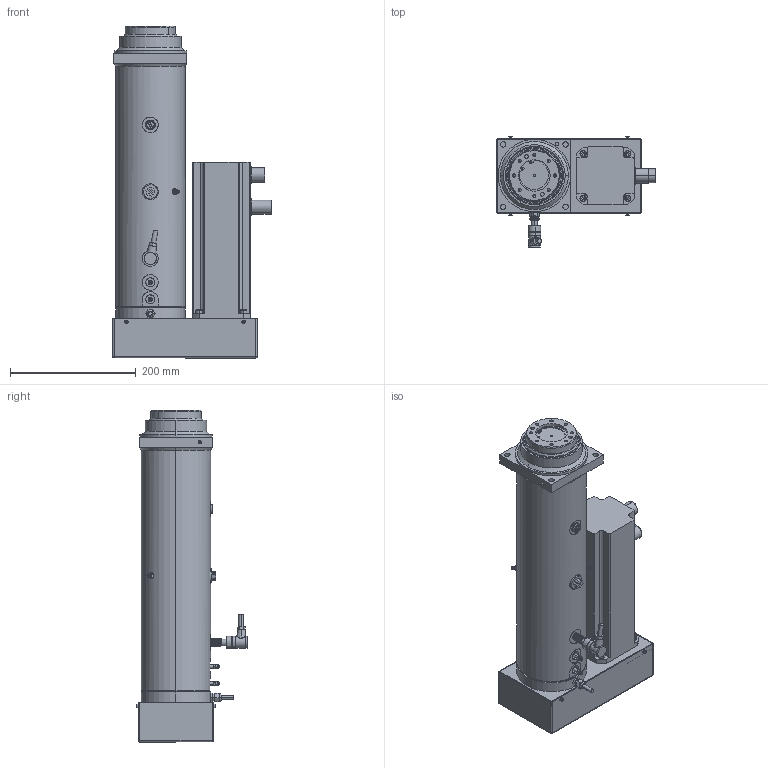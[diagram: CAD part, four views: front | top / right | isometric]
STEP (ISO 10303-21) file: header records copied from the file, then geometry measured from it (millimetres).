
FILE_DESCRIPTION (( 'STEP AP203' ), '1' );
FILE_NAME ('374012.STEP', '2018-11-08T07:13:20', ( '' ), ( '' ), 'SwSTEP 2.0', 'SolidWorks 2016', '' );
FILE_SCHEMA (( 'CONFIG_CONTROL_DESIGN' ));
Length unit declared in the file: millimetre
Products named in the file (1): 374012
Bounding box: 251.4 x 176.1 x 527 mm (x, y, z)
Volume: 5157094 mm3; surface area: 827011 mm2
Topology: 26 solids, 27 shells, 1068 faces, 2537 edges, 1563 vertices
Faces by surface type: cylinder 481, plane 398, cone 151, torus 28, sphere 8, bspline 2
Entity records: 35603 total; most frequent: CARTESIAN_POINT 10587, DIRECTION 5479, ORIENTED_EDGE 4906, EDGE_CURVE 2453, AXIS2_PLACEMENT_3D 2146, VERTEX_POINT 1563, EDGE_LOOP 1318, VECTOR 1187
